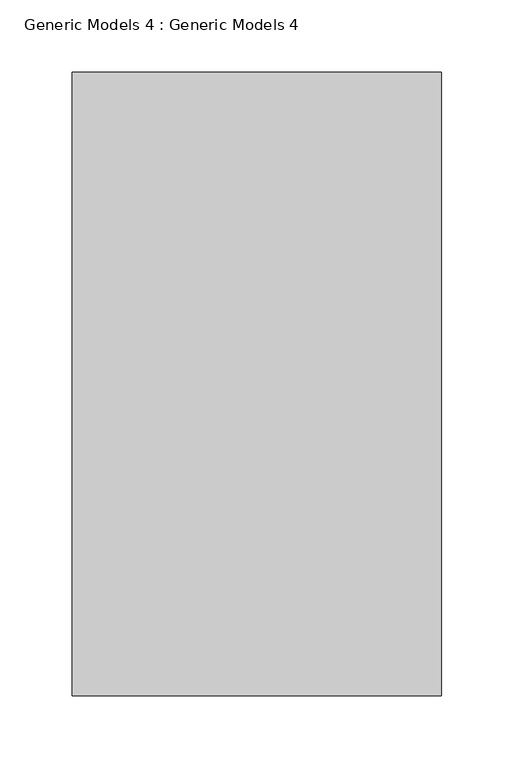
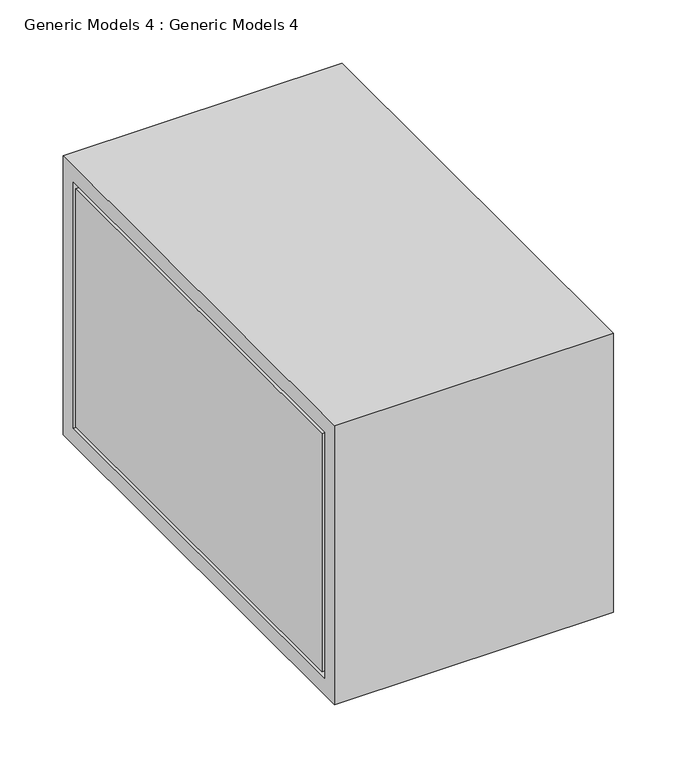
"""IFC4 building model written with IfcOpenShell, lengths in millimetres: proxy geometry, Generic Models 4 : Generic Models 4."""

from ifc_helpers import new_model, si_unit, frame, origin, place, context, project, spatial, polyline, outline, extrude, source, transform, mapped, element, save


def generic_models_4_generic_models_4_27ab01c0(model_context):
    return source(origin(), model_context, "Body", "SweptSolid", [
        extrude(outline(polyline([(24600.3542434, 330.0), (24600.3542434, 60.0), (24169.7995579, 60.0), (24169.7995579, 330.0), (24600.3542434, 330.0)]), holes=[polyline([(24185.7995579, 76.0), (24584.3542434, 76.0), (24584.3542434, 314.0), (24185.7995579, 314.0), (24185.7995579, 76.0)])]), frame((95223.6539834, 0.0, 0.0), z_axis=(1.0, 0.0, 0.0), x_axis=(0.0, 1.0, 0.0)), (0.0, 0.0, 1.0), 255.1362828),
        extrude(outline(polyline([(95478.7902662, 24580.3542434), (95478.7902662, 24189.7995579), (95223.6539834, 24189.7995579), (95223.6539834, 24580.3542434), (95478.7902662, 24580.3542434)])), frame((0.0, 0.0, 80.0), z_axis=(0.0, 0.0, 1.0), x_axis=(1.0, 0.0, 0.0)), (0.0, 0.0, 1.0), 230.0),
    ])


if __name__ == "__main__":
    model = new_model("IFC4")
    model_context = context("Model", 3, world=origin())
    ifc_project = project(units=[si_unit("LENGTHUNIT", "METRE", prefix="MILLI")], contexts=[model_context])
    site = spatial("IfcSite", under=ifc_project)
    building = spatial("IfcBuilding", under=site)
    placement = place(None, origin())
    generic_models_4_generic_models_4_shape = generic_models_4_generic_models_4_27ab01c0(model_context)
    element("IfcBuildingElementProxy", 1, Name="Generic Models 4 : Generic Models 4", ObjectType="Generic Models 4 : Generic Models 4", at=placement, inside=building, context=model_context, shape_type="MappedRepresentation", body=[
        mapped(generic_models_4_generic_models_4_shape, transform((0.0, 0.0, 0.0), x_axis=(1.0, 0.0, 0.0), y_axis=(0.0, 1.0, 0.0), z_axis=(0.0, 0.0, 1.0))),
    ])
    save(model, "model.ifc")
